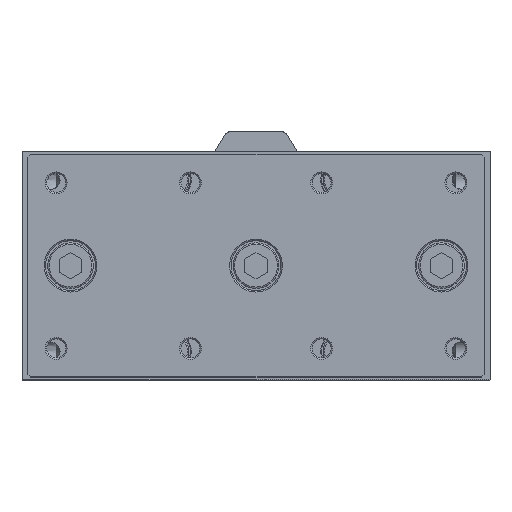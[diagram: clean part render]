
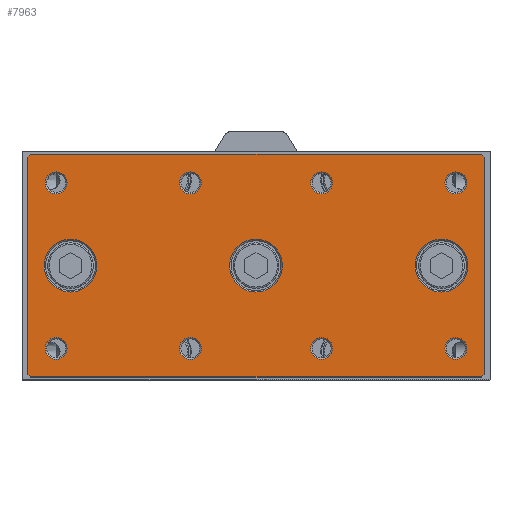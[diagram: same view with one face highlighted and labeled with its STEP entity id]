
A CAD part, top view. The second image highlights one B-rep face of the part: STEP entity #7963.
In plain terms, the highlighted planar face has unit normal (0, 0, 1).
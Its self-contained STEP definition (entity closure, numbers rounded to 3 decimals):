
#7745=CARTESIAN_POINT('',(-78.641,-40.316,175.5));
#7746=VERTEX_POINT('',#7745);
#7747=CARTESIAN_POINT('',(-79.641,-39.316,175.5));
#7748=VERTEX_POINT('',#7747);
#7749=CARTESIAN_POINT('',(-78.641,-40.316,175.5));
#7750=DIRECTION('',(-0.707,0.707,0.0));
#7751=VECTOR('',#7750,1.414);
#7752=LINE('',#7749,#7751);
#7753=EDGE_CURVE('',#7746,#7748,#7752,.T.);
#7780=CARTESIAN_POINT('',(0.359,-1.316,175.5));
#7781=DIRECTION('',(0.0,0.0,1.0));
#7782=DIRECTION('',(1.0,0.0,0.0));
#7783=AXIS2_PLACEMENT_3D('',#7780,#7781,#7782);
#7784=PLANE('',#7783);
#7785=ORIENTED_EDGE('',*,*,#7753,.F.);
#7786=CARTESIAN_POINT('',(79.359,-40.316,175.5));
#7787=VERTEX_POINT('',#7786);
#7788=CARTESIAN_POINT('',(79.359,-40.316,175.5));
#7789=DIRECTION('',(-1.0,0.0,0.0));
#7790=VECTOR('',#7789,158.0);
#7791=LINE('',#7788,#7790);
#7792=EDGE_CURVE('',#7787,#7746,#7791,.T.);
#7793=ORIENTED_EDGE('',*,*,#7792,.F.);
#7794=CARTESIAN_POINT('',(80.359,-39.316,175.5));
#7795=VERTEX_POINT('',#7794);
#7796=CARTESIAN_POINT('',(80.359,-39.316,175.5));
#7797=DIRECTION('',(-0.707,-0.707,0.0));
#7798=VECTOR('',#7797,1.414);
#7799=LINE('',#7796,#7798);
#7800=EDGE_CURVE('',#7795,#7787,#7799,.T.);
#7801=ORIENTED_EDGE('',*,*,#7800,.F.);
#7802=CARTESIAN_POINT('',(80.359,36.684,175.5));
#7803=VERTEX_POINT('',#7802);
#7804=CARTESIAN_POINT('',(80.359,36.684,175.5));
#7805=DIRECTION('',(0.0,-1.0,0.0));
#7806=VECTOR('',#7805,76.);
#7807=LINE('',#7804,#7806);
#7808=EDGE_CURVE('',#7803,#7795,#7807,.T.);
#7809=ORIENTED_EDGE('',*,*,#7808,.F.);
#7810=CARTESIAN_POINT('',(79.359,37.684,175.5));
#7811=VERTEX_POINT('',#7810);
#7812=CARTESIAN_POINT('',(79.359,37.684,175.5));
#7813=DIRECTION('',(0.707,-0.707,0.0));
#7814=VECTOR('',#7813,1.414);
#7815=LINE('',#7812,#7814);
#7816=EDGE_CURVE('',#7811,#7803,#7815,.T.);
#7817=ORIENTED_EDGE('',*,*,#7816,.F.);
#7818=CARTESIAN_POINT('',(-78.641,37.684,175.5));
#7819=VERTEX_POINT('',#7818);
#7820=CARTESIAN_POINT('',(-78.641,37.684,175.5));
#7821=DIRECTION('',(1.0,0.0,0.0));
#7822=VECTOR('',#7821,158.0);
#7823=LINE('',#7820,#7822);
#7824=EDGE_CURVE('',#7819,#7811,#7823,.T.);
#7825=ORIENTED_EDGE('',*,*,#7824,.F.);
#7826=CARTESIAN_POINT('',(-79.641,36.684,175.5));
#7827=VERTEX_POINT('',#7826);
#7828=CARTESIAN_POINT('',(-79.641,36.684,175.5));
#7829=DIRECTION('',(0.707,0.707,0.0));
#7830=VECTOR('',#7829,1.414);
#7831=LINE('',#7828,#7830);
#7832=EDGE_CURVE('',#7827,#7819,#7831,.T.);
#7833=ORIENTED_EDGE('',*,*,#7832,.F.);
#7834=CARTESIAN_POINT('',(-79.641,-39.316,175.5));
#7835=DIRECTION('',(0.0,1.0,0.0));
#7836=VECTOR('',#7835,76.0);
#7837=LINE('',#7834,#7836);
#7838=EDGE_CURVE('',#7748,#7827,#7837,.T.);
#7839=ORIENTED_EDGE('',*,*,#7838,.F.);
#7840=EDGE_LOOP('',(#7785,#7793,#7801,#7809,#7817,#7825,#7833,#7839));
#7841=FACE_OUTER_BOUND('',#7840,.T.);
#7842=CARTESIAN_POINT('',(-65.818,27.684,175.5));
#7843=VERTEX_POINT('',#7842);
#7844=CARTESIAN_POINT('',(-69.641,27.684,175.5));
#7845=DIRECTION('',(0.0,0.0,1.0));
#7846=DIRECTION('',(-1.0,0.0,0.0));
#7847=AXIS2_PLACEMENT_3D('',#7844,#7845,#7846);
#7848=CIRCLE('',#7847,3.823);
#7849=EDGE_CURVE('',#7843,#7843,#7848,.T.);
#7850=ORIENTED_EDGE('',*,*,#7849,.F.);
#7851=EDGE_LOOP('',(#7850));
#7852=FACE_BOUND('',#7851,.T.);
#7853=CARTESIAN_POINT('',(-18.818,27.684,175.5));
#7854=VERTEX_POINT('',#7853);
#7855=CARTESIAN_POINT('',(-22.641,27.684,175.5));
#7856=DIRECTION('',(0.0,0.0,1.0));
#7857=DIRECTION('',(-1.0,0.0,0.0));
#7858=AXIS2_PLACEMENT_3D('',#7855,#7856,#7857);
#7859=CIRCLE('',#7858,3.823);
#7860=EDGE_CURVE('',#7854,#7854,#7859,.T.);
#7861=ORIENTED_EDGE('',*,*,#7860,.F.);
#7862=EDGE_LOOP('',(#7861));
#7863=FACE_BOUND('',#7862,.T.);
#7864=CARTESIAN_POINT('',(9.609,-1.316,175.5));
#7865=VERTEX_POINT('',#7864);
#7866=CARTESIAN_POINT('',(0.359,-1.316,175.5));
#7867=DIRECTION('',(0.0,0.0,1.0));
#7868=DIRECTION('',(-1.0,0.0,0.0));
#7869=AXIS2_PLACEMENT_3D('',#7866,#7867,#7868);
#7870=CIRCLE('',#7869,9.25);
#7871=EDGE_CURVE('',#7865,#7865,#7870,.T.);
#7872=ORIENTED_EDGE('',*,*,#7871,.F.);
#7873=EDGE_LOOP('',(#7872));
#7874=FACE_BOUND('',#7873,.T.);
#7875=CARTESIAN_POINT('',(74.609,-1.316,175.5));
#7876=VERTEX_POINT('',#7875);
#7877=CARTESIAN_POINT('',(65.359,-1.316,175.5));
#7878=DIRECTION('',(0.0,0.0,1.0));
#7879=DIRECTION('',(-1.0,0.0,0.0));
#7880=AXIS2_PLACEMENT_3D('',#7877,#7878,#7879);
#7881=CIRCLE('',#7880,9.25);
#7882=EDGE_CURVE('',#7876,#7876,#7881,.T.);
#7883=ORIENTED_EDGE('',*,*,#7882,.F.);
#7884=EDGE_LOOP('',(#7883));
#7885=FACE_BOUND('',#7884,.T.);
#7886=CARTESIAN_POINT('',(-55.391,-1.316,175.5));
#7887=VERTEX_POINT('',#7886);
#7888=CARTESIAN_POINT('',(-64.641,-1.316,175.5));
#7889=DIRECTION('',(0.0,0.0,1.0));
#7890=DIRECTION('',(-1.0,0.0,0.0));
#7891=AXIS2_PLACEMENT_3D('',#7888,#7889,#7890);
#7892=CIRCLE('',#7891,9.25);
#7893=EDGE_CURVE('',#7887,#7887,#7892,.T.);
#7894=ORIENTED_EDGE('',*,*,#7893,.F.);
#7895=EDGE_LOOP('',(#7894));
#7896=FACE_BOUND('',#7895,.T.);
#7897=CARTESIAN_POINT('',(74.182,-30.316,175.5));
#7898=VERTEX_POINT('',#7897);
#7899=CARTESIAN_POINT('',(70.359,-30.316,175.5));
#7900=DIRECTION('',(0.0,0.0,1.0));
#7901=DIRECTION('',(-1.0,0.0,0.0));
#7902=AXIS2_PLACEMENT_3D('',#7899,#7900,#7901);
#7903=CIRCLE('',#7902,3.823);
#7904=EDGE_CURVE('',#7898,#7898,#7903,.T.);
#7905=ORIENTED_EDGE('',*,*,#7904,.F.);
#7906=EDGE_LOOP('',(#7905));
#7907=FACE_BOUND('',#7906,.T.);
#7908=CARTESIAN_POINT('',(-65.818,-30.316,175.5));
#7909=VERTEX_POINT('',#7908);
#7910=CARTESIAN_POINT('',(-69.641,-30.316,175.5));
#7911=DIRECTION('',(0.0,0.0,1.0));
#7912=DIRECTION('',(-1.0,0.0,0.0));
#7913=AXIS2_PLACEMENT_3D('',#7910,#7911,#7912);
#7914=CIRCLE('',#7913,3.823);
#7915=EDGE_CURVE('',#7909,#7909,#7914,.T.);
#7916=ORIENTED_EDGE('',*,*,#7915,.F.);
#7917=EDGE_LOOP('',(#7916));
#7918=FACE_BOUND('',#7917,.T.);
#7919=CARTESIAN_POINT('',(74.182,27.684,175.5));
#7920=VERTEX_POINT('',#7919);
#7921=CARTESIAN_POINT('',(70.359,27.684,175.5));
#7922=DIRECTION('',(0.0,0.0,1.0));
#7923=DIRECTION('',(-1.0,0.0,0.0));
#7924=AXIS2_PLACEMENT_3D('',#7921,#7922,#7923);
#7925=CIRCLE('',#7924,3.823);
#7926=EDGE_CURVE('',#7920,#7920,#7925,.T.);
#7927=ORIENTED_EDGE('',*,*,#7926,.F.);
#7928=EDGE_LOOP('',(#7927));
#7929=FACE_BOUND('',#7928,.T.);
#7930=CARTESIAN_POINT('',(27.182,-30.316,175.5));
#7931=VERTEX_POINT('',#7930);
#7932=CARTESIAN_POINT('',(23.359,-30.316,175.5));
#7933=DIRECTION('',(0.0,0.0,1.0));
#7934=DIRECTION('',(-1.0,0.0,0.0));
#7935=AXIS2_PLACEMENT_3D('',#7932,#7933,#7934);
#7936=CIRCLE('',#7935,3.824);
#7937=EDGE_CURVE('',#7931,#7931,#7936,.T.);
#7938=ORIENTED_EDGE('',*,*,#7937,.F.);
#7939=EDGE_LOOP('',(#7938));
#7940=FACE_BOUND('',#7939,.T.);
#7941=CARTESIAN_POINT('',(-18.818,-30.316,175.5));
#7942=VERTEX_POINT('',#7941);
#7943=CARTESIAN_POINT('',(-22.641,-30.316,175.5));
#7944=DIRECTION('',(0.0,0.0,1.0));
#7945=DIRECTION('',(-1.0,0.0,0.0));
#7946=AXIS2_PLACEMENT_3D('',#7943,#7944,#7945);
#7947=CIRCLE('',#7946,3.823);
#7948=EDGE_CURVE('',#7942,#7942,#7947,.T.);
#7949=ORIENTED_EDGE('',*,*,#7948,.F.);
#7950=EDGE_LOOP('',(#7949));
#7951=FACE_BOUND('',#7950,.T.);
#7952=CARTESIAN_POINT('',(27.182,27.684,175.5));
#7953=VERTEX_POINT('',#7952);
#7954=CARTESIAN_POINT('',(23.359,27.684,175.5));
#7955=DIRECTION('',(0.0,0.0,1.0));
#7956=DIRECTION('',(-1.0,0.0,0.0));
#7957=AXIS2_PLACEMENT_3D('',#7954,#7955,#7956);
#7958=CIRCLE('',#7957,3.824);
#7959=EDGE_CURVE('',#7953,#7953,#7958,.T.);
#7960=ORIENTED_EDGE('',*,*,#7959,.F.);
#7961=EDGE_LOOP('',(#7960));
#7962=FACE_BOUND('',#7961,.T.);
#7963=ADVANCED_FACE('',(#7841,#7852,#7863,#7874,#7885,#7896,#7907,#7918,#7929,#7940,#7951,#7962),#7784,.T.);
